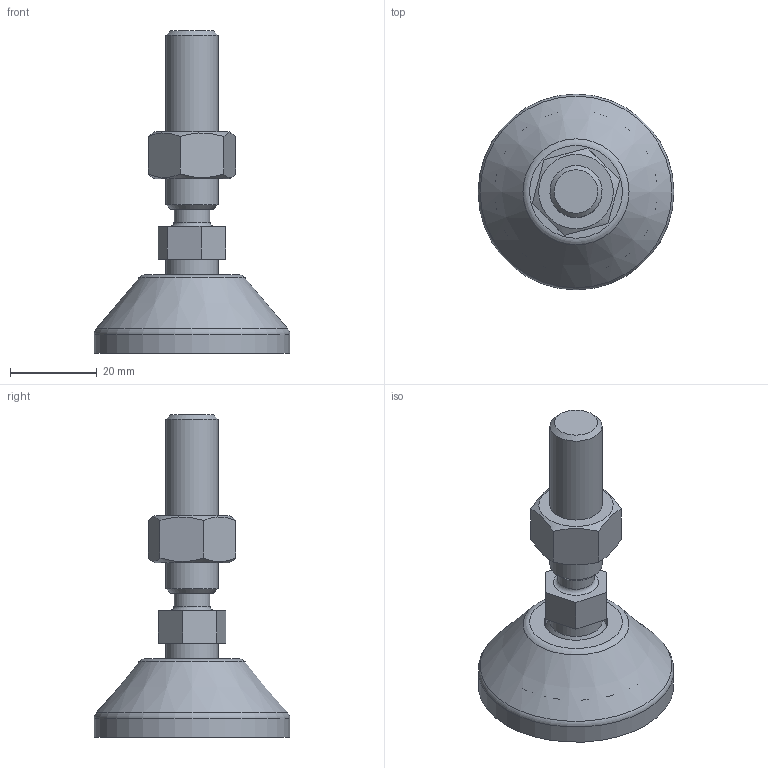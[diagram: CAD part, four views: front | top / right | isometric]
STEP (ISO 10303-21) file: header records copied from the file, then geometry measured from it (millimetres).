
FILE_DESCRIPTION(('STEP AP203'), '1');
FILE_NAME('栖闉罻', '', ('UNSPECIFIED'), ('UNSPECIFIED'), 'C3D Converter', 'C3D Toolkit', '');
FILE_SCHEMA(('CONFIG_CONTROL_DESIGN'));
Length unit declared in the file: millimetre
Products named in the file (4): A00015.1045; A00020.112045
Assembly tree (3 placements, depth 3):
  (unnamed)
    A00015.1045
    A00020.112045
      (unnamed)
Bounding box: 45 x 45 x 74.1 mm (x, y, z)
Volume: 22127.8 mm3; surface area: 10959 mm2
Topology: 3 solids, 3 shells, 129 faces, 356 edges, 238 vertices
Faces by surface type: plane 79, cylinder 26, torus 13, cone 9, sphere 2
Full cylindrical faces by diameter (mm): 8.3 x1, 10.647 x1, 12 x2, 14.3 x1, 15 x2, 15.5 x1, 37.3 x1, 45 x1
Entity records: 6911 total; most frequent: CARTESIAN_POINT 2447, DIRECTION 680, ORIENTED_EDGE 658, EDGE_CURVE 329, AXIS2_PLACEMENT_3D 264, VERTEX_POINT 237, EDGE_LOOP 162, LINE 152
